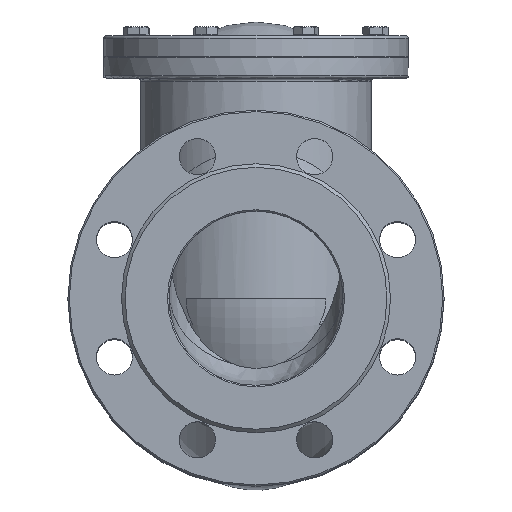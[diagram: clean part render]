
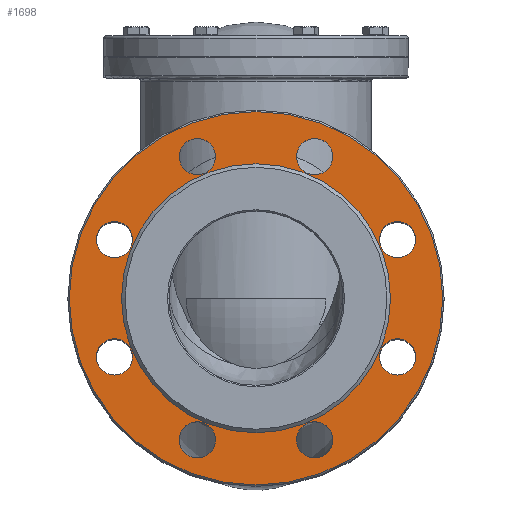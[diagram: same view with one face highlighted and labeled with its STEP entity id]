
A CAD part, top view. The second image highlights one B-rep face of the part: STEP entity #1698.
In plain terms, the highlighted planar face has unit normal (0, 0, 1).
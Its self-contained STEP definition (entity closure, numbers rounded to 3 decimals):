
#1698=ADVANCED_FACE('',(#7191,#7193,#7195,#7197,#7199,#7201,#7203,#7205,#7207,#7209),
#7211,.T.);
#7191=FACE_BOUND('',#7192,.T.);
#7192=EDGE_LOOP('',(#9323));
#7193=FACE_BOUND('',#7194,.T.);
#7194=EDGE_LOOP('',(#9324));
#7195=FACE_BOUND('',#7196,.T.);
#7196=EDGE_LOOP('',(#9325));
#7197=FACE_BOUND('',#7198,.T.);
#7198=EDGE_LOOP('',(#9326));
#7199=FACE_BOUND('',#7200,.T.);
#7200=EDGE_LOOP('',(#9327));
#7201=FACE_BOUND('',#7202,.T.);
#7202=EDGE_LOOP('',(#9328));
#7203=FACE_BOUND('',#7204,.T.);
#7204=EDGE_LOOP('',(#9329));
#7205=FACE_BOUND('',#7206,.T.);
#7206=EDGE_LOOP('',(#9330));
#7207=FACE_BOUND('',#7208,.T.);
#7208=EDGE_LOOP('',(#9331));
#7209=FACE_BOUND('',#7210,.T.);
#7210=EDGE_LOOP('',(#9332));
#7211=PLANE('',#7212);
#7212=AXIS2_PLACEMENT_3D('',#7213,#7214,#7215);
#7213=CARTESIAN_POINT('',(0.,0.,184.063));
#7214=DIRECTION('',(0.,0.,1.));
#7215=DIRECTION('',(1.,0.,0.));
#9323=ORIENTED_EDGE('',*,*,#10213,.F.);
#9324=ORIENTED_EDGE('',*,*,#10214,.F.);
#9325=ORIENTED_EDGE('',*,*,#10202,.T.);
#9326=ORIENTED_EDGE('',*,*,#10203,.T.);
#9327=ORIENTED_EDGE('',*,*,#10204,.T.);
#9328=ORIENTED_EDGE('',*,*,#10205,.T.);
#9329=ORIENTED_EDGE('',*,*,#10206,.T.);
#9330=ORIENTED_EDGE('',*,*,#10207,.T.);
#9331=ORIENTED_EDGE('',*,*,#10208,.T.);
#9332=ORIENTED_EDGE('',*,*,#10209,.T.);
#10202=EDGE_CURVE('',#11519,#11519,#11520,.T.);
#10203=EDGE_CURVE('',#11521,#11521,#11522,.T.);
#10204=EDGE_CURVE('',#11523,#11523,#11524,.T.);
#10205=EDGE_CURVE('',#11525,#11525,#11526,.T.);
#10206=EDGE_CURVE('',#11527,#11527,#11528,.T.);
#10207=EDGE_CURVE('',#11529,#11529,#11530,.T.);
#10208=EDGE_CURVE('',#11531,#11531,#11532,.T.);
#10209=EDGE_CURVE('',#11533,#11533,#11534,.T.);
#10213=EDGE_CURVE('',#11541,#11541,#11542,.T.);
#10214=EDGE_CURVE('',#11543,#11543,#11544,.T.);
#11519=VERTEX_POINT('',#22170);
#11520=CIRCLE('',#22171,13.);
#11521=VERTEX_POINT('',#22175);
#11522=CIRCLE('',#22176,13.);
#11523=VERTEX_POINT('',#22180);
#11524=CIRCLE('',#22181,13.);
#11525=VERTEX_POINT('',#22185);
#11526=CIRCLE('',#22186,13.);
#11527=VERTEX_POINT('',#22190);
#11528=CIRCLE('',#22191,13.);
#11529=VERTEX_POINT('',#22195);
#11530=CIRCLE('',#22196,13.);
#11531=VERTEX_POINT('',#22200);
#11532=CIRCLE('',#22201,13.);
#11533=VERTEX_POINT('',#22205);
#11534=CIRCLE('',#22206,13.);
#11541=VERTEX_POINT('',#22225);
#11542=CIRCLE('',#22226,134.);
#11543=VERTEX_POINT('',#22230);
#11544=CIRCLE('',#22231,96.5);
#22170=CARTESIAN_POINT('',(114.627,-42.095,184.063));
#22171=AXIS2_PLACEMENT_3D('',#22172,#22173,#22174);
#22172=CARTESIAN_POINT('',(101.627,-42.095,184.063));
#22173=DIRECTION('',(0.,0.,-1.));
#22174=DIRECTION('',(1.,0.,0.));
#22175=CARTESIAN_POINT('',(114.627,42.095,184.063));
#22176=AXIS2_PLACEMENT_3D('',#22177,#22178,#22179);
#22177=CARTESIAN_POINT('',(101.627,42.095,184.063));
#22178=DIRECTION('',(0.,0.,-1.));
#22179=DIRECTION('',(1.,0.,0.));
#22180=CARTESIAN_POINT('',(55.095,101.627,184.063));
#22181=AXIS2_PLACEMENT_3D('',#22182,#22183,#22184);
#22182=CARTESIAN_POINT('',(42.095,101.627,184.063));
#22183=DIRECTION('',(0.,0.,-1.));
#22184=DIRECTION('',(1.,0.,0.));
#22185=CARTESIAN_POINT('',(-29.095,101.627,184.063));
#22186=AXIS2_PLACEMENT_3D('',#22187,#22188,#22189);
#22187=CARTESIAN_POINT('',(-42.095,101.627,184.063));
#22188=DIRECTION('',(0.,0.,-1.));
#22189=DIRECTION('',(1.,0.,0.));
#22190=CARTESIAN_POINT('',(-88.627,42.095,184.063));
#22191=AXIS2_PLACEMENT_3D('',#22192,#22193,#22194);
#22192=CARTESIAN_POINT('',(-101.627,42.095,184.063));
#22193=DIRECTION('',(0.,0.,-1.));
#22194=DIRECTION('',(1.,0.,0.));
#22195=CARTESIAN_POINT('',(-88.627,-42.095,184.063));
#22196=AXIS2_PLACEMENT_3D('',#22197,#22198,#22199);
#22197=CARTESIAN_POINT('',(-101.627,-42.095,184.063));
#22198=DIRECTION('',(0.,0.,-1.));
#22199=DIRECTION('',(1.,0.,0.));
#22200=CARTESIAN_POINT('',(-29.095,-101.627,184.063));
#22201=AXIS2_PLACEMENT_3D('',#22202,#22203,#22204);
#22202=CARTESIAN_POINT('',(-42.095,-101.627,184.063));
#22203=DIRECTION('',(0.,0.,-1.));
#22204=DIRECTION('',(1.,0.,0.));
#22205=CARTESIAN_POINT('',(55.095,-101.627,184.063));
#22206=AXIS2_PLACEMENT_3D('',#22207,#22208,#22209);
#22207=CARTESIAN_POINT('',(42.095,-101.627,184.063));
#22208=DIRECTION('',(0.,0.,-1.));
#22209=DIRECTION('',(1.,0.,0.));
#22225=CARTESIAN_POINT('',(134.,0.,184.063));
#22226=AXIS2_PLACEMENT_3D('',#22227,#22228,#22229);
#22227=CARTESIAN_POINT('',(0.,0.,184.063));
#22228=DIRECTION('',(0.,0.,-1.));
#22229=DIRECTION('',(1.,0.,0.));
#22230=CARTESIAN_POINT('',(96.5,0.,184.063));
#22231=AXIS2_PLACEMENT_3D('',#22232,#22233,#22234);
#22232=CARTESIAN_POINT('',(0.,0.,184.063));
#22233=DIRECTION('',(0.,0.,1.));
#22234=DIRECTION('',(1.,0.,0.));
